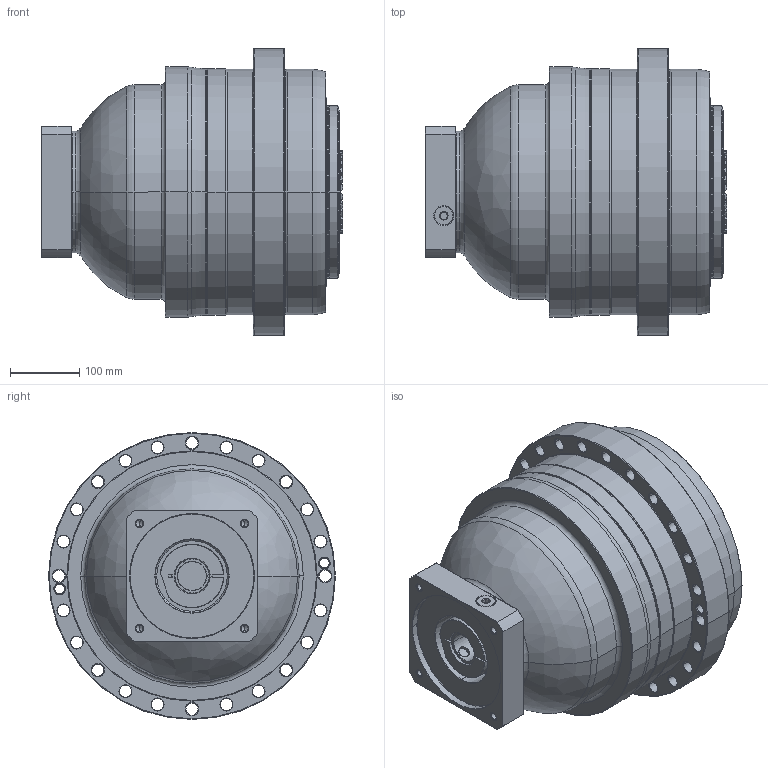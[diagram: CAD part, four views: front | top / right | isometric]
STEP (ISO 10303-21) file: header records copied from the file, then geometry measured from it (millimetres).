
FILE_DESCRIPTION((''),'2;1');
FILE_NAME('APC355_3ST_42-P0409A00201_ASM','2018-11-01T',('d01226'),(''),'PRO/ENGINEER BY PARAMETRIC TECHNOLOGY CORPORATION, 2015240','PRO/ENGINEER BY PARAMETRIC TECHNOLOGY CORPORATION, 2015240','');
FILE_SCHEMA(('CONFIG_CONTROL_DESIGN'));
Length unit declared in the file: millimetre
Products named in the file (9): P0276101003; P03571G0103; P1366900301; P0503A00012; P0912603001; P1222100001; P0409A00201; 21711422019; APC355_3ST_42-P0409A00201_ASM
Assembly tree (8 placements, depth 2):
  APC355_3ST_42-P0409A00201_ASM
    P0276101003
    P03571G0103
    P1366900301
    P0503A00012
    P0912603001
    P1222100001
    P0409A00201
    21711422019
Bounding box: 435.6 x 415 x 415 mm (x, y, z)
Volume: 38048152.3 mm3; surface area: 1370570.2 mm2
Topology: 9 solids, 22 shells, 852 faces, 2101 edges, 1285 vertices
Faces by surface type: cone 280, cylinder 250, plane 162, torus 146, bspline 14
Entity records: 31542 total; most frequent: CARTESIAN_POINT 11014, DIRECTION 4563, ORIENTED_EDGE 4100, EDGE_CURVE 2075, AXIS2_PLACEMENT_3D 1984, VERTEX_POINT 1285, CIRCLE 1117, EDGE_LOOP 962
